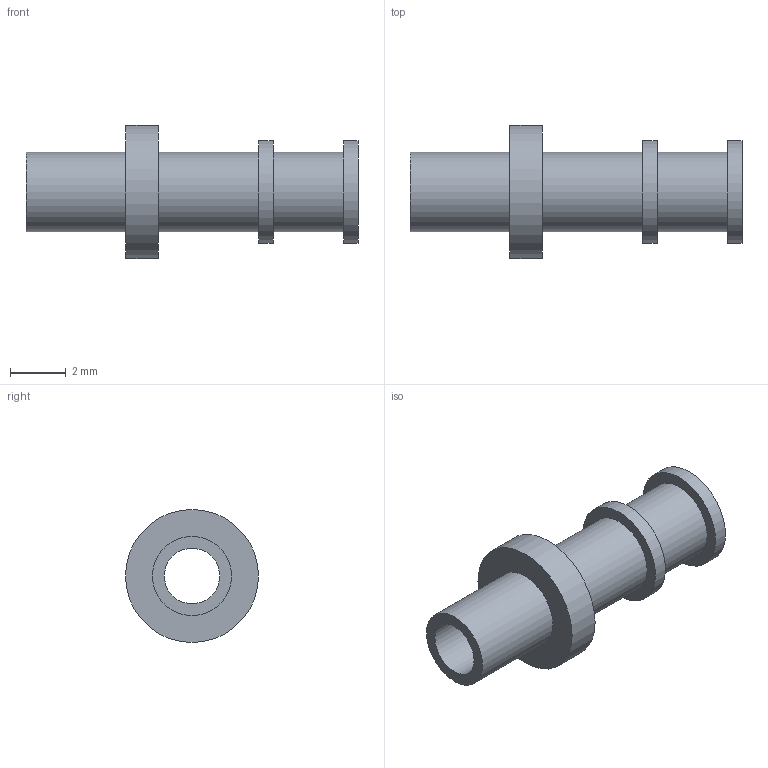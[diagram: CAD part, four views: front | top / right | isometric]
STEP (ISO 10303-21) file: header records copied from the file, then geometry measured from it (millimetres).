
FILE_DESCRIPTION(/* description */ (''),/* implementation_level */ '2;1');
FILE_NAME(/* name */ 'Z:\STEP folder\160-1513-03.ipt.stp',/* time_stamp */ '2016-12-07T10:47:43+00:00',/* author */ ('Paul Karlsons'),/* organization */ (''),/* preprocessor_version */ 'ST-DEVELOPER v15.2',/* originating_system */ 'Autodesk Inventor 2014',/* authorisation */ '');
FILE_SCHEMA (('AUTOMOTIVE_DESIGN { 1 0 10303 214 3 1 1 }'));
Length unit declared in the file: millimetre
Products named in the file (1): 160-1513-03
Bounding box: 11.91 x 4.78 x 4.78 mm (x, y, z)
Volume: 56.3 mm3; surface area: 237.4 mm2
Topology: 1 solids, 1 shells, 14 faces, 22 edges, 15 vertices
Faces by surface type: cylinder 7, plane 7
Full cylindrical faces by diameter (mm): 1.99 x1, 2.84 x3, 3.683 x2, 4.775 x1
Entity records: 309 total; most frequent: DIRECTION 58, CARTESIAN_POINT 43, AXIS2_PLACEMENT_3D 29, EDGE_LOOP 28, ORIENTED_EDGE 28, FACE_BOUND 18, CIRCLE 14, VERTEX_POINT 14
